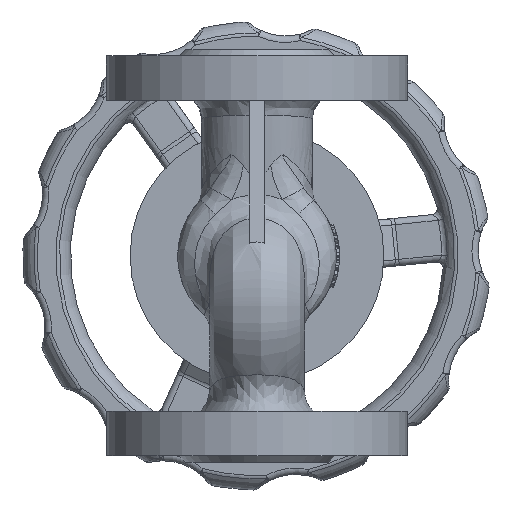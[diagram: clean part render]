
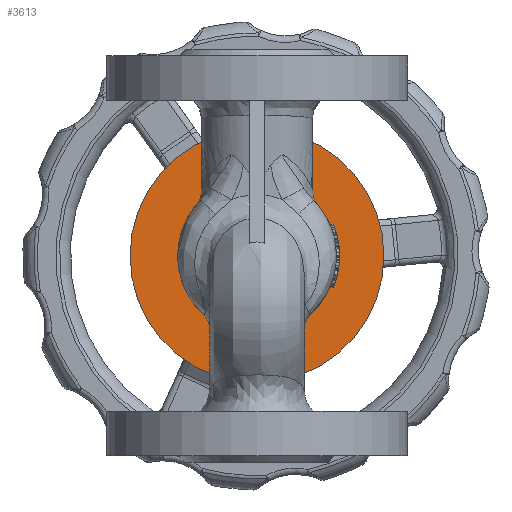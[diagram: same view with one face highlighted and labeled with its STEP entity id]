
A CAD part, front view. The second image highlights one B-rep face of the part: STEP entity #3613.
In plain terms, the highlighted planar face has unit normal (0, -1, 0).
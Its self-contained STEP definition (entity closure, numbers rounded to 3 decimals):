
#3613=ADVANCED_FACE('',(#20459,#20461),#20463,.F.);
#20459=FACE_BOUND('',#20460,.T.);
#20460=EDGE_LOOP('',(#31074));
#20461=FACE_BOUND('',#20462,.T.);
#20462=EDGE_LOOP('',(#31075));
#20463=PLANE('',#20464);
#20464=AXIS2_PLACEMENT_3D('',#20465,#20466,#20467);
#20465=CARTESIAN_POINT('',(0.,42.,0.));
#20466=DIRECTION('',(0.,1.,0.));
#20467=DIRECTION('',(0.,0.,-1.));
#31074=ORIENTED_EDGE('',*,*,#35574,.F.);
#31075=ORIENTED_EDGE('',*,*,#35339,.F.);
#35339=EDGE_CURVE('',#38614,#38614,#38615,.T.);
#35574=EDGE_CURVE('',#38981,#38981,#38982,.T.);
#38614=VERTEX_POINT('',#59792);
#38615=CIRCLE('',#59793,22.);
#38981=VERTEX_POINT('',#61400);
#38982=CIRCLE('',#61401,40.);
#59792=CARTESIAN_POINT('',(0.,42.,-22.));
#59793=AXIS2_PLACEMENT_3D('',#59794,#59795,#59796);
#59794=CARTESIAN_POINT('',(0.,42.,0.));
#59795=DIRECTION('',(0.,-1.,0.));
#59796=DIRECTION('',(0.,0.,-1.));
#61400=CARTESIAN_POINT('',(0.,42.,-40.));
#61401=AXIS2_PLACEMENT_3D('',#61402,#61403,#61404);
#61402=CARTESIAN_POINT('',(0.,42.,0.));
#61403=DIRECTION('',(0.,1.,0.));
#61404=DIRECTION('',(0.,0.,-1.));
